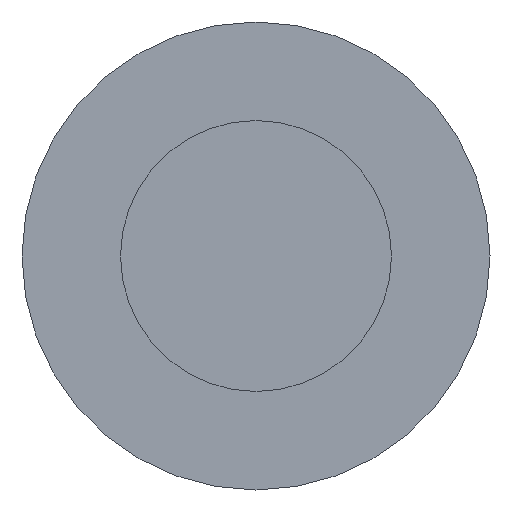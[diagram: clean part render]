
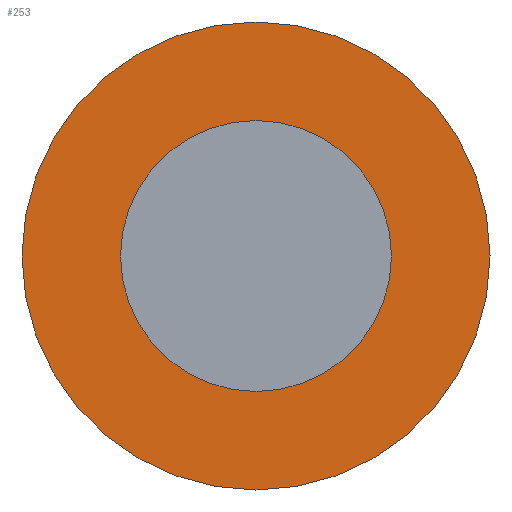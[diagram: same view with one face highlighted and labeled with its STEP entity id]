
A CAD part, front view. The second image highlights one B-rep face of the part: STEP entity #253.
In plain terms, the highlighted planar face has unit normal (0, -1, 0).
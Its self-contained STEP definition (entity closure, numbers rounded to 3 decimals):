
#180 = CYLINDRICAL_SURFACE('',#181,3.8);
#181 = AXIS2_PLACEMENT_3D('',#182,#183,#184);
#182 = CARTESIAN_POINT('',(0.,24.4,9.4));
#183 = DIRECTION('',(0.,-1.,0.));
#184 = DIRECTION('',(1.,0.,0.));
#203 = VERTEX_POINT('',#204);
#204 = CARTESIAN_POINT('',(3.8,24.4,9.4));
#227 = EDGE_CURVE('',#203,#203,#228,.T.);
#228 = SURFACE_CURVE('',#229,(#234,#241),.PCURVE_S1.);
#229 = CIRCLE('',#230,3.8);
#230 = AXIS2_PLACEMENT_3D('',#231,#232,#233);
#231 = CARTESIAN_POINT('',(0.,24.4,9.4));
#232 = DIRECTION('',(0.,-1.,0.));
#233 = DIRECTION('',(1.,0.,0.));
#234 = PCURVE('',#180,#235);
#235 = DEFINITIONAL_REPRESENTATION('',(#236),#240);
#236 = LINE('',#237,#238);
#237 = CARTESIAN_POINT('',(0.,0.));
#238 = VECTOR('',#239,1.);
#239 = DIRECTION('',(1.,0.));
#240 = ( GEOMETRIC_REPRESENTATION_CONTEXT(2) 
PARAMETRIC_REPRESENTATION_CONTEXT() REPRESENTATION_CONTEXT('2D SPACE',''
  ) );
#241 = PCURVE('',#242,#247);
#242 = PLANE('',#243);
#243 = AXIS2_PLACEMENT_3D('',#244,#245,#246);
#244 = CARTESIAN_POINT('',(0.,24.4,9.4));
#245 = DIRECTION('',(-0.,-1.,-0.));
#246 = DIRECTION('',(0.,0.,-1.));
#247 = DEFINITIONAL_REPRESENTATION('',(#248),#252);
#248 = CIRCLE('',#249,3.8);
#249 = AXIS2_PLACEMENT_2D('',#250,#251);
#250 = CARTESIAN_POINT('',(0.,0.));
#251 = DIRECTION('',(0.,1.));
#252 = ( GEOMETRIC_REPRESENTATION_CONTEXT(2) 
PARAMETRIC_REPRESENTATION_CONTEXT() REPRESENTATION_CONTEXT('2D SPACE',''
  ) );
#253 = ADVANCED_FACE('',(#254,#257),#242,.T.);
#254 = FACE_BOUND('',#255,.T.);
#255 = EDGE_LOOP('',(#256));
#256 = ORIENTED_EDGE('',*,*,#227,.T.);
#257 = FACE_BOUND('',#258,.T.);
#258 = EDGE_LOOP('',(#259));
#259 = ORIENTED_EDGE('',*,*,#260,.F.);
#260 = EDGE_CURVE('',#261,#261,#263,.T.);
#261 = VERTEX_POINT('',#262);
#262 = CARTESIAN_POINT('',(2.2,24.4,9.4));
#263 = SURFACE_CURVE('',#264,(#269,#276),.PCURVE_S1.);
#264 = CIRCLE('',#265,2.2);
#265 = AXIS2_PLACEMENT_3D('',#266,#267,#268);
#266 = CARTESIAN_POINT('',(0.,24.4,9.4));
#267 = DIRECTION('',(0.,-1.,0.));
#268 = DIRECTION('',(1.,0.,0.));
#269 = PCURVE('',#242,#270);
#270 = DEFINITIONAL_REPRESENTATION('',(#271),#275);
#271 = CIRCLE('',#272,2.2);
#272 = AXIS2_PLACEMENT_2D('',#273,#274);
#273 = CARTESIAN_POINT('',(0.,0.));
#274 = DIRECTION('',(0.,1.));
#275 = ( GEOMETRIC_REPRESENTATION_CONTEXT(2) 
PARAMETRIC_REPRESENTATION_CONTEXT() REPRESENTATION_CONTEXT('2D SPACE',''
  ) );
#276 = PCURVE('',#277,#282);
#277 = CYLINDRICAL_SURFACE('',#278,2.2);
#278 = AXIS2_PLACEMENT_3D('',#279,#280,#281);
#279 = CARTESIAN_POINT('',(0.,24.35,9.4));
#280 = DIRECTION('',(0.,-1.,0.));
#281 = DIRECTION('',(1.,0.,0.));
#282 = DEFINITIONAL_REPRESENTATION('',(#283),#287);
#283 = LINE('',#284,#285);
#284 = CARTESIAN_POINT('',(0.,-0.05));
#285 = VECTOR('',#286,1.);
#286 = DIRECTION('',(1.,0.));
#287 = ( GEOMETRIC_REPRESENTATION_CONTEXT(2) 
PARAMETRIC_REPRESENTATION_CONTEXT() REPRESENTATION_CONTEXT('2D SPACE',''
  ) );
